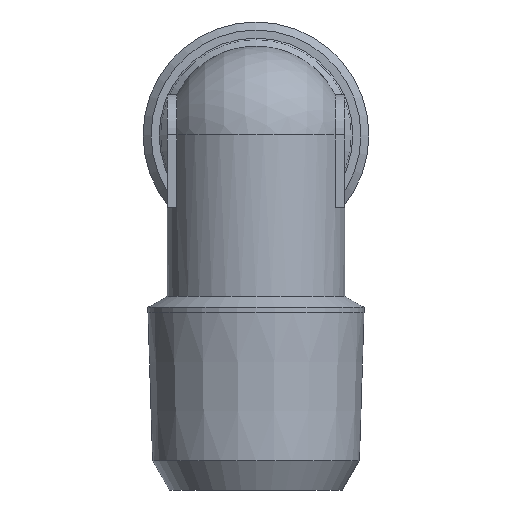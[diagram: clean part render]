
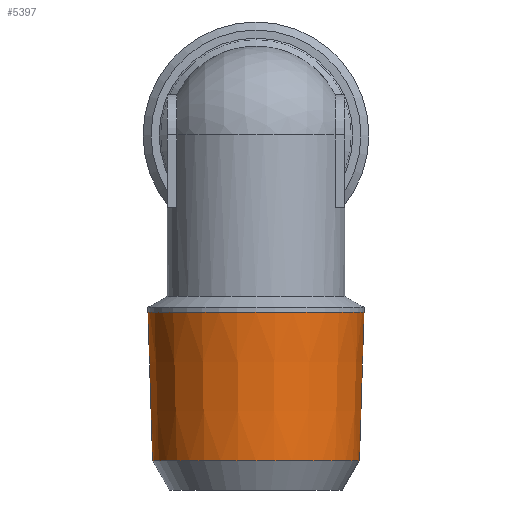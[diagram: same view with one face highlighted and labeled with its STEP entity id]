
A CAD part, left-side view. The second image highlights one B-rep face of the part: STEP entity #5397.
In plain terms, the highlighted conical face has half-angle 1.79 degrees and reference radius 6.694 mm.
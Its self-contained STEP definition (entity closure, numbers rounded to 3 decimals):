
#1491=CONICAL_SURFACE('',#5248,6.694,1.79);
#1534=ORIENTED_EDGE('',*,*,#1928,.F.);
#1535=ORIENTED_EDGE('',*,*,#1929,.T.);
#1781=CIRCLE('',#5247,6.407);
#1782=CIRCLE('',#5249,6.694);
#1838=VERTEX_POINT('',#2637);
#1839=VERTEX_POINT('',#2640);
#1928=EDGE_CURVE('',#1838,#1838,#1781,.T.);
#1929=EDGE_CURVE('',#1839,#1839,#1782,.T.);
#2058=EDGE_LOOP('',(#1534));
#2059=EDGE_LOOP('',(#1535));
#2159=FACE_BOUND('',#2058,.T.);
#2160=FACE_BOUND('',#2059,.T.);
#2278=DIRECTION('',(0.,-1.,0.));
#2279=DIRECTION('',(0.,0.,6.407));
#2280=DIRECTION('',(0.,1.,0.));
#2281=DIRECTION('',(0.,0.,1.));
#2282=DIRECTION('',(0.,-1.,0.));
#2283=DIRECTION('',(0.,0.,6.694));
#2637=CARTESIAN_POINT('',(27.861,13.865,6.407));
#2638=CARTESIAN_POINT('',(27.861,13.865,0.));
#2639=CARTESIAN_POINT('',(27.861,23.065,0.));
#2640=CARTESIAN_POINT('',(27.861,23.065,-6.694));
#2641=CARTESIAN_POINT('',(27.861,23.065,0.));
#5247=AXIS2_PLACEMENT_3D('',#2638,#2278,#2279);
#5248=AXIS2_PLACEMENT_3D('',#2639,#2280,#2281);
#5249=AXIS2_PLACEMENT_3D('',#2641,#2282,#2283);
#5397=ADVANCED_FACE('',(#2159,#2160),#1491,.T.);
